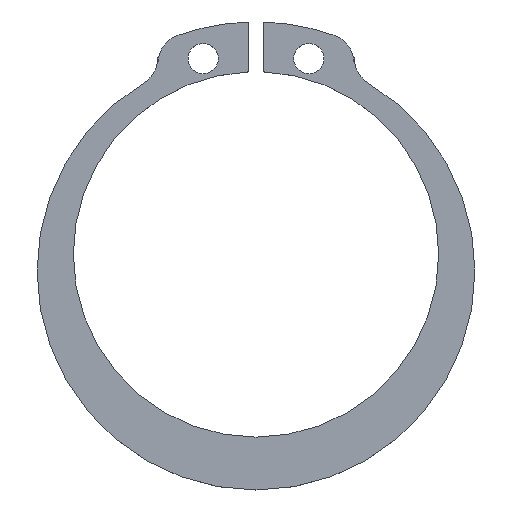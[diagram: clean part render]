
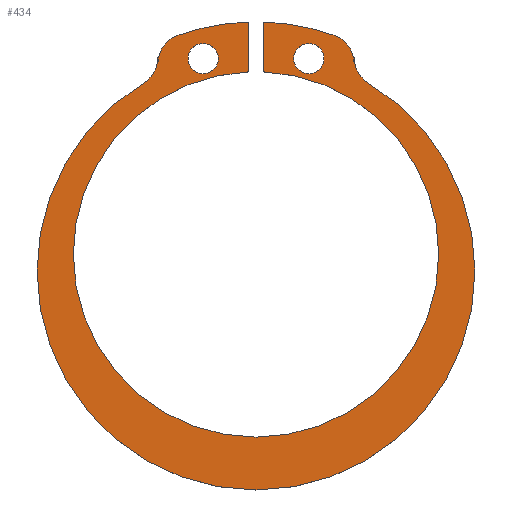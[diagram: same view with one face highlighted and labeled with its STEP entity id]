
A CAD part, top view. The second image highlights one B-rep face of the part: STEP entity #434.
In plain terms, the highlighted planar face has unit normal (0, 0, 1).
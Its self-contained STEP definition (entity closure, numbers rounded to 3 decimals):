
#70=CARTESIAN_POINT('Vertex',(-5.167,14.614,0.6)) ;
#73=CARTESIAN_POINT('Axis2P3D Location',(0.,0.,0.6)) ;
#77=CARTESIAN_POINT('Vertex',(-0.5,15.492,0.6)) ;
#264=CARTESIAN_POINT('Vertex',(-6.5,12.728,0.6)) ;
#267=CARTESIAN_POINT('Axis2P3D Location',(-4.5,12.728,0.6)) ;
#279=CARTESIAN_POINT('Axis2P3D Location',(-8.5,13.142,0.6)) ;
#284=CARTESIAN_POINT('Axis2P3D Location',(-8.5,13.142,0.6)) ;
#288=CARTESIAN_POINT('Vertex',(-7.47,11.428,0.6)) ;
#290=CARTESIAN_POINT('Vertex',(-6.5,13.142,0.6)) ;
#293=CARTESIAN_POINT('Axis2P3D Location',(0.,-1.,0.6)) ;
#297=CARTESIAN_POINT('Vertex',(-14.5,-1.,0.6)) ;
#300=CARTESIAN_POINT('Axis2P3D Location',(0.,-1.,0.6)) ;
#304=CARTESIAN_POINT('Vertex',(14.5,-1.,0.6)) ;
#307=CARTESIAN_POINT('Axis2P3D Location',(0.,-1.,0.6)) ;
#311=CARTESIAN_POINT('Vertex',(7.47,11.428,0.6)) ;
#314=CARTESIAN_POINT('Axis2P3D Location',(8.5,13.142,0.6)) ;
#318=CARTESIAN_POINT('Vertex',(6.5,13.142,0.6)) ;
#321=CARTESIAN_POINT('Line Origine',(6.5,12.935,0.6)) ;
#325=CARTESIAN_POINT('Vertex',(6.5,12.728,0.6)) ;
#328=CARTESIAN_POINT('Axis2P3D Location',(4.5,12.728,0.6)) ;
#332=CARTESIAN_POINT('Vertex',(5.167,14.614,0.6)) ;
#335=CARTESIAN_POINT('Axis2P3D Location',(0.,0.,0.6)) ;
#339=CARTESIAN_POINT('Vertex',(0.5,15.492,0.6)) ;
#342=CARTESIAN_POINT('Line Origine',(0.5,13.841,0.6)) ;
#346=CARTESIAN_POINT('Vertex',(0.5,12.19,0.6)) ;
#349=CARTESIAN_POINT('Axis2P3D Location',(0.,0.1,0.6)) ;
#353=CARTESIAN_POINT('Vertex',(12.1,0.1,0.6)) ;
#356=CARTESIAN_POINT('Axis2P3D Location',(0.,0.1,0.6)) ;
#360=CARTESIAN_POINT('Vertex',(-12.1,0.1,0.6)) ;
#363=CARTESIAN_POINT('Axis2P3D Location',(0.,0.1,0.6)) ;
#367=CARTESIAN_POINT('Vertex',(-0.5,12.19,0.6)) ;
#370=CARTESIAN_POINT('Line Origine',(-0.5,13.841,0.6)) ;
#375=CARTESIAN_POINT('Line Origine',(-6.5,12.935,0.6)) ;
#398=CARTESIAN_POINT('Axis2P3D Location',(3.5,13.071,0.6)) ;
#402=CARTESIAN_POINT('Vertex',(2.5,13.071,0.6)) ;
#404=CARTESIAN_POINT('Vertex',(4.5,13.071,0.6)) ;
#407=CARTESIAN_POINT('Axis2P3D Location',(3.5,13.071,0.6)) ;
#416=CARTESIAN_POINT('Axis2P3D Location',(-3.5,13.071,0.6)) ;
#420=CARTESIAN_POINT('Vertex',(-4.5,13.071,0.6)) ;
#422=CARTESIAN_POINT('Vertex',(-2.5,13.071,0.6)) ;
#425=CARTESIAN_POINT('Axis2P3D Location',(-3.5,13.071,0.6)) ;
#74=DIRECTION('Axis2P3D Direction',(0.,0.,1.)) ;
#268=DIRECTION('Axis2P3D Direction',(0.,0.,1.)) ;
#280=DIRECTION('Axis2P3D Direction',(0.,0.,1.)) ;
#281=DIRECTION('Axis2P3D XDirection',(1.,0.,-0.)) ;
#285=DIRECTION('Axis2P3D Direction',(0.,0.,1.)) ;
#294=DIRECTION('Axis2P3D Direction',(0.,0.,1.)) ;
#301=DIRECTION('Axis2P3D Direction',(0.,0.,1.)) ;
#308=DIRECTION('Axis2P3D Direction',(0.,0.,1.)) ;
#315=DIRECTION('Axis2P3D Direction',(0.,0.,1.)) ;
#322=DIRECTION('Vector Direction',(0.,-1.,0.)) ;
#329=DIRECTION('Axis2P3D Direction',(0.,0.,1.)) ;
#336=DIRECTION('Axis2P3D Direction',(0.,0.,1.)) ;
#343=DIRECTION('Vector Direction',(0.,-1.,0.)) ;
#350=DIRECTION('Axis2P3D Direction',(0.,0.,1.)) ;
#357=DIRECTION('Axis2P3D Direction',(0.,0.,1.)) ;
#364=DIRECTION('Axis2P3D Direction',(0.,0.,1.)) ;
#371=DIRECTION('Vector Direction',(0.,1.,0.)) ;
#376=DIRECTION('Vector Direction',(0.,1.,0.)) ;
#399=DIRECTION('Axis2P3D Direction',(0.,0.,1.)) ;
#408=DIRECTION('Axis2P3D Direction',(0.,0.,1.)) ;
#417=DIRECTION('Axis2P3D Direction',(0.,0.,1.)) ;
#426=DIRECTION('Axis2P3D Direction',(0.,0.,1.)) ;
#75=AXIS2_PLACEMENT_3D('Circle Axis2P3D',#73,#74,$) ;
#269=AXIS2_PLACEMENT_3D('Circle Axis2P3D',#267,#268,$) ;
#282=AXIS2_PLACEMENT_3D('Plane Axis2P3D',#279,#280,#281) ;
#286=AXIS2_PLACEMENT_3D('Circle Axis2P3D',#284,#285,$) ;
#295=AXIS2_PLACEMENT_3D('Circle Axis2P3D',#293,#294,$) ;
#302=AXIS2_PLACEMENT_3D('Circle Axis2P3D',#300,#301,$) ;
#309=AXIS2_PLACEMENT_3D('Circle Axis2P3D',#307,#308,$) ;
#316=AXIS2_PLACEMENT_3D('Circle Axis2P3D',#314,#315,$) ;
#330=AXIS2_PLACEMENT_3D('Circle Axis2P3D',#328,#329,$) ;
#337=AXIS2_PLACEMENT_3D('Circle Axis2P3D',#335,#336,$) ;
#351=AXIS2_PLACEMENT_3D('Circle Axis2P3D',#349,#350,$) ;
#358=AXIS2_PLACEMENT_3D('Circle Axis2P3D',#356,#357,$) ;
#365=AXIS2_PLACEMENT_3D('Circle Axis2P3D',#363,#364,$) ;
#400=AXIS2_PLACEMENT_3D('Circle Axis2P3D',#398,#399,$) ;
#409=AXIS2_PLACEMENT_3D('Circle Axis2P3D',#407,#408,$) ;
#418=AXIS2_PLACEMENT_3D('Circle Axis2P3D',#416,#417,$) ;
#427=AXIS2_PLACEMENT_3D('Circle Axis2P3D',#425,#426,$) ;
#381=ORIENTED_EDGE('',*,*,#292,.F.) ;
#382=ORIENTED_EDGE('',*,*,#299,.T.) ;
#383=ORIENTED_EDGE('',*,*,#306,.T.) ;
#384=ORIENTED_EDGE('',*,*,#313,.T.) ;
#385=ORIENTED_EDGE('',*,*,#320,.F.) ;
#386=ORIENTED_EDGE('',*,*,#327,.T.) ;
#387=ORIENTED_EDGE('',*,*,#334,.T.) ;
#388=ORIENTED_EDGE('',*,*,#341,.T.) ;
#389=ORIENTED_EDGE('',*,*,#348,.T.) ;
#390=ORIENTED_EDGE('',*,*,#355,.F.) ;
#391=ORIENTED_EDGE('',*,*,#362,.F.) ;
#392=ORIENTED_EDGE('',*,*,#369,.F.) ;
#393=ORIENTED_EDGE('',*,*,#374,.T.) ;
#394=ORIENTED_EDGE('',*,*,#79,.T.) ;
#395=ORIENTED_EDGE('',*,*,#271,.T.) ;
#396=ORIENTED_EDGE('',*,*,#379,.T.) ;
#413=ORIENTED_EDGE('',*,*,#406,.F.) ;
#414=ORIENTED_EDGE('',*,*,#411,.F.) ;
#431=ORIENTED_EDGE('',*,*,#424,.F.) ;
#432=ORIENTED_EDGE('',*,*,#429,.F.) ;
#415=FACE_BOUND('',#412,.T.) ;
#433=FACE_BOUND('',#430,.T.) ;
#323=VECTOR('Line Direction',#322,1.) ;
#344=VECTOR('Line Direction',#343,1.) ;
#372=VECTOR('Line Direction',#371,1.) ;
#377=VECTOR('Line Direction',#376,1.) ;
#434=ADVANCED_FACE('553S-R26',(#397,#415,#433),#283,.T.) ;
#76=CIRCLE('generated circle',#75,15.5) ;
#270=CIRCLE('generated circle',#269,2.) ;
#287=CIRCLE('generated circle',#286,2.) ;
#296=CIRCLE('generated circle',#295,14.5) ;
#303=CIRCLE('generated circle',#302,14.5) ;
#310=CIRCLE('generated circle',#309,14.5) ;
#317=CIRCLE('generated circle',#316,2.) ;
#331=CIRCLE('generated circle',#330,2.) ;
#338=CIRCLE('generated circle',#337,15.5) ;
#352=CIRCLE('generated circle',#351,12.1) ;
#359=CIRCLE('generated circle',#358,12.1) ;
#366=CIRCLE('generated circle',#365,12.1) ;
#401=CIRCLE('generated circle',#400,1.) ;
#410=CIRCLE('generated circle',#409,1.) ;
#419=CIRCLE('generated circle',#418,1.) ;
#428=CIRCLE('generated circle',#427,1.) ;
#79=EDGE_CURVE('',#78,#71,#76,.T.) ;
#271=EDGE_CURVE('',#71,#265,#270,.T.) ;
#292=EDGE_CURVE('',#289,#291,#287,.T.) ;
#299=EDGE_CURVE('',#289,#298,#296,.T.) ;
#306=EDGE_CURVE('',#298,#305,#303,.T.) ;
#313=EDGE_CURVE('',#305,#312,#310,.T.) ;
#320=EDGE_CURVE('',#319,#312,#317,.T.) ;
#327=EDGE_CURVE('',#319,#326,#324,.T.) ;
#334=EDGE_CURVE('',#326,#333,#331,.T.) ;
#341=EDGE_CURVE('',#333,#340,#338,.T.) ;
#348=EDGE_CURVE('',#340,#347,#345,.T.) ;
#355=EDGE_CURVE('',#354,#347,#352,.T.) ;
#362=EDGE_CURVE('',#361,#354,#359,.T.) ;
#369=EDGE_CURVE('',#368,#361,#366,.T.) ;
#374=EDGE_CURVE('',#368,#78,#373,.T.) ;
#379=EDGE_CURVE('',#265,#291,#378,.T.) ;
#406=EDGE_CURVE('',#403,#405,#401,.T.) ;
#411=EDGE_CURVE('',#405,#403,#410,.T.) ;
#424=EDGE_CURVE('',#421,#423,#419,.T.) ;
#429=EDGE_CURVE('',#423,#421,#428,.T.) ;
#380=EDGE_LOOP('',(#381,#382,#383,#384,#385,#386,#387,#388,#389,#390,#391,#392,#393,#394,#395,#396)) ;
#412=EDGE_LOOP('',(#413,#414)) ;
#430=EDGE_LOOP('',(#431,#432)) ;
#397=FACE_OUTER_BOUND('',#380,.T.) ;
#324=LINE('Line',#321,#323) ;
#345=LINE('Line',#342,#344) ;
#373=LINE('Line',#370,#372) ;
#378=LINE('Line',#375,#377) ;
#283=PLANE('Plane',#282) ;
#71=VERTEX_POINT('',#70) ;
#78=VERTEX_POINT('',#77) ;
#265=VERTEX_POINT('',#264) ;
#289=VERTEX_POINT('',#288) ;
#291=VERTEX_POINT('',#290) ;
#298=VERTEX_POINT('',#297) ;
#305=VERTEX_POINT('',#304) ;
#312=VERTEX_POINT('',#311) ;
#319=VERTEX_POINT('',#318) ;
#326=VERTEX_POINT('',#325) ;
#333=VERTEX_POINT('',#332) ;
#340=VERTEX_POINT('',#339) ;
#347=VERTEX_POINT('',#346) ;
#354=VERTEX_POINT('',#353) ;
#361=VERTEX_POINT('',#360) ;
#368=VERTEX_POINT('',#367) ;
#403=VERTEX_POINT('',#402) ;
#405=VERTEX_POINT('',#404) ;
#421=VERTEX_POINT('',#420) ;
#423=VERTEX_POINT('',#422) ;
